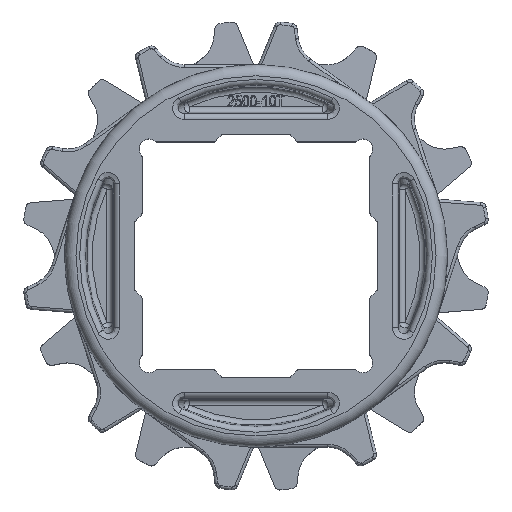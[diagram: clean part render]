
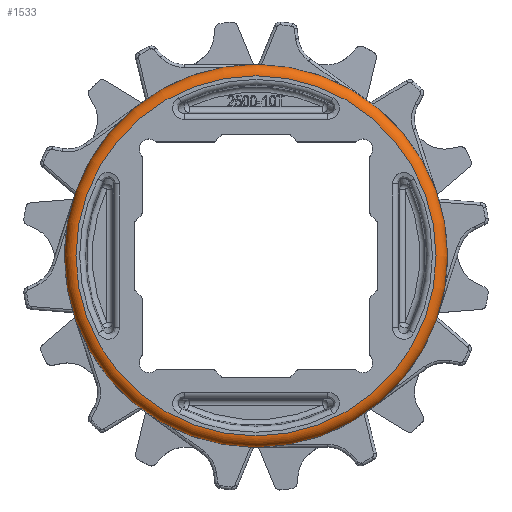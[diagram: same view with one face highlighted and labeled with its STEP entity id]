
A CAD part, top view. The second image highlights one B-rep face of the part: STEP entity #1533.
In plain terms, the highlighted toroidal (fillet/blend) face has major radius 31.837 mm and minor radius 2 mm.
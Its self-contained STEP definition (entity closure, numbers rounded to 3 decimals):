
#196=TOROIDAL_SURFACE('',#10559,31.837,2.);
#1533=ADVANCED_FACE('',(#2625,#2626),#196,.T.);
#2100=CIRCLE('',#9707,31.837);
#2185=CIRCLE('',#9924,33.837);
#2201=CIRCLE('',#9941,33.837);
#2625=FACE_BOUND('',#3058,.T.);
#2626=FACE_BOUND('',#3059,.T.);
#3058=EDGE_LOOP('',(#5438));
#3059=EDGE_LOOP('',(#5439,#5440));
#5438=ORIENTED_EDGE('',*,*,#7036,.F.);
#5439=ORIENTED_EDGE('',*,*,#7390,.F.);
#5440=ORIENTED_EDGE('',*,*,#7455,.F.);
#6146=VERTEX_POINT('',#14181);
#6499=VERTEX_POINT('',#15139);
#6500=VERTEX_POINT('',#15141);
#7036=EDGE_CURVE('',#6146,#6146,#2100,.T.);
#7390=EDGE_CURVE('',#6499,#6500,#2185,.T.);
#7455=EDGE_CURVE('',#6500,#6499,#2201,.T.);
#9707=AXIS2_PLACEMENT_3D('',#14180,#10832,#10833);
#9924=AXIS2_PLACEMENT_3D('',#15140,#11435,#11436);
#9941=AXIS2_PLACEMENT_3D('',#15472,#11494,#11495);
#10559=AXIS2_PLACEMENT_3D('',#17490,#13072,#13073);
#10832=DIRECTION('',(0.,0.,1.));
#10833=DIRECTION('',(-1.,0.,0.));
#11435=DIRECTION('',(0.,0.,-1.));
#11436=DIRECTION('',(-1.,0.,0.));
#11494=DIRECTION('',(0.,0.,-1.));
#11495=DIRECTION('',(-1.,0.,0.));
#13072=DIRECTION('',(0.,0.,-1.));
#13073=DIRECTION('',(-1.,0.,0.));
#14180=CARTESIAN_POINT('',(0.,0.,15.));
#14181=CARTESIAN_POINT('',(-31.837,0.,15.));
#15139=CARTESIAN_POINT('',(-33.837,0.,13.));
#15140=CARTESIAN_POINT('',(0.,0.,13.));
#15141=CARTESIAN_POINT('',(33.837,0.,13.));
#15472=CARTESIAN_POINT('',(0.,0.,13.));
#17490=CARTESIAN_POINT('',(0.,0.,13.));
